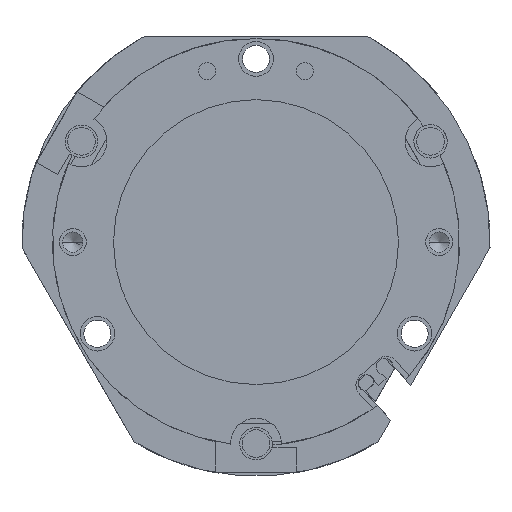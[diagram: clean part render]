
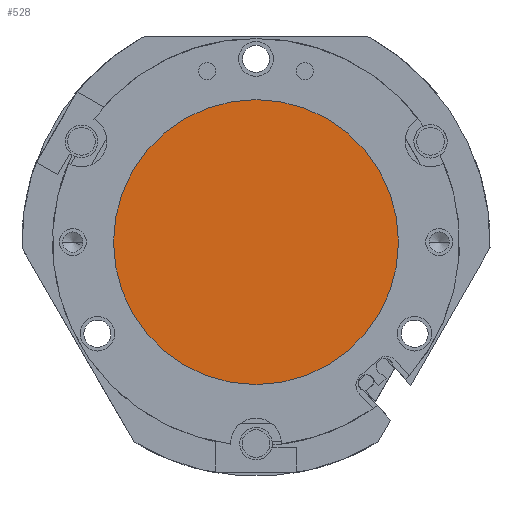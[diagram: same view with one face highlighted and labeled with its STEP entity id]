
A CAD part, front view. The second image highlights one B-rep face of the part: STEP entity #528.
In plain terms, the highlighted planar face has unit normal (0, -1, 0) as drawn and (0, 1, 0) by its records, which use the part's own axes.
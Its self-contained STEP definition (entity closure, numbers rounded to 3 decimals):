
#181 = PLANE ( 'NONE',  #1640 ) ;
#528 = ADVANCED_FACE ( 'NONE', ( #6506 ), #181, .T. ) ;
#1555 = DIRECTION ( 'NONE',  ( 0., 1., 0. ) ) ;
#1640 = AXIS2_PLACEMENT_3D ( 'NONE', #8447, #6779, #10035 ) ;
#2194 = EDGE_CURVE ( 'NONE', #4820, #11372, #7951, .T. ) ;
#4462 = AXIS2_PLACEMENT_3D ( 'NONE', #7823, #1555, #8881 ) ;
#4820 = VERTEX_POINT ( 'NONE', #5750 ) ;
#5690 = CARTESIAN_POINT ( 'NONE',  ( 0., 5.8, 0. ) ) ;
#5750 = CARTESIAN_POINT ( 'NONE',  ( 0., 5.8, 35. ) ) ;
#6506 = FACE_OUTER_BOUND ( 'NONE', #9190, .T. ) ;
#6693 = ORIENTED_EDGE ( 'NONE', *, *, #2194, .T. ) ;
#6764 = DIRECTION ( 'NONE',  ( 0., 0., -1. ) ) ;
#6779 = DIRECTION ( 'NONE',  ( 0., 1., 0. ) ) ;
#7823 = CARTESIAN_POINT ( 'NONE',  ( 0., 5.8, 0. ) ) ;
#7951 = CIRCLE ( 'NONE', #8946, 35. ) ;
#8447 = CARTESIAN_POINT ( 'NONE',  ( 0., 5.8, 0. ) ) ;
#8881 = DIRECTION ( 'NONE',  ( 0., 0., -1. ) ) ;
#8946 = AXIS2_PLACEMENT_3D ( 'NONE', #5690, #13039, #6764 ) ;
#9003 = CARTESIAN_POINT ( 'NONE',  ( 0., 5.8, -35. ) ) ;
#9190 = EDGE_LOOP ( 'NONE', ( #11415, #6693 ) ) ;
#10035 = DIRECTION ( 'NONE',  ( 0., 0., 1. ) ) ;
#11372 = VERTEX_POINT ( 'NONE', #9003 ) ;
#11415 = ORIENTED_EDGE ( 'NONE', *, *, #12446, .T. ) ;
#12446 = EDGE_CURVE ( 'NONE', #11372, #4820, #12816, .T. ) ;
#12816 = CIRCLE ( 'NONE', #4462, 35. ) ;
#13039 = DIRECTION ( 'NONE',  ( 0., 1., 0. ) ) ;
